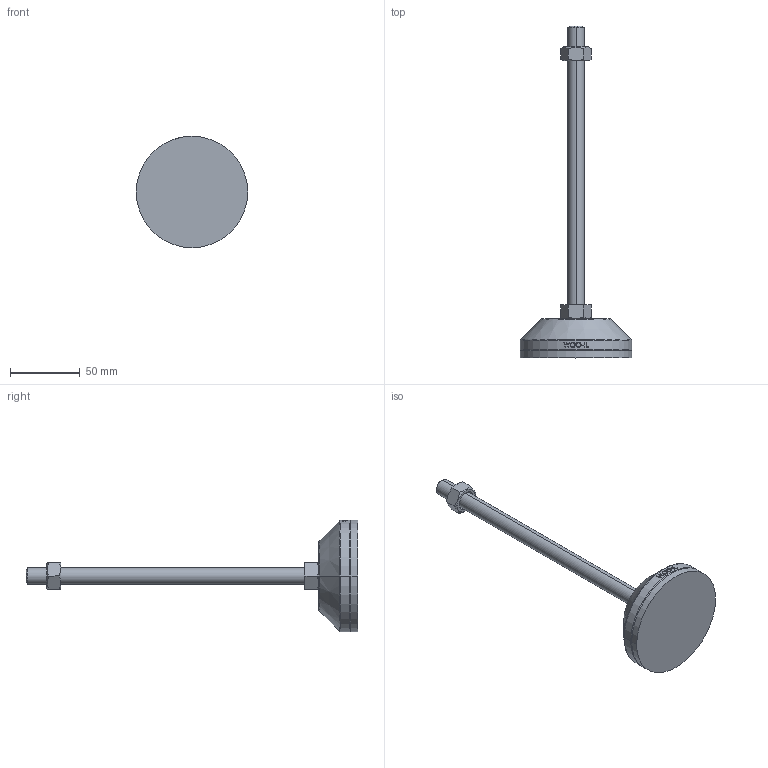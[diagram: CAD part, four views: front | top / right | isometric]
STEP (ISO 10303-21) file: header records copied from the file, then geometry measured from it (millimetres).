
FILE_DESCRIPTION (( 'STEP AP214' ), '1' );
FILE_NAME ('NHNR80-M12-200.step', '2021-01-25T06:21:09', ( '' ), ( '' ), 'SwSTEP 2.0', 'SolidWorks 2019', '' );
FILE_SCHEMA (( 'AUTOMOTIVE_DESIGN' ));
Length unit declared in the file: millimetre
Products named in the file (2): NHNR80-M12-200
Bounding box: 80 x 238 x 80 mm (x, y, z)
Volume: 142881.6 mm3; surface area: 34929.2 mm2
Topology: 4 solids, 4 shells, 105 faces, 239 edges, 152 vertices
Faces by surface type: plane 49, cylinder 18, bspline 16, cone 14, torus 8
Entity records: 4363 total; most frequent: CARTESIAN_POINT 2046, ORIENTED_EDGE 478, DIRECTION 429, EDGE_CURVE 239, AXIS2_PLACEMENT_3D 165, VERTEX_POINT 152, EDGE_LOOP 117, ADVANCED_FACE 105
